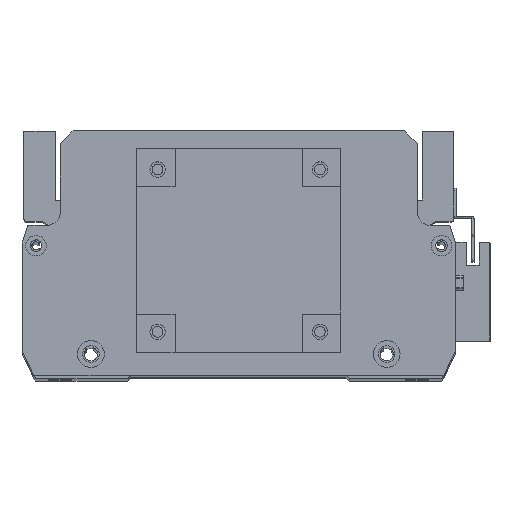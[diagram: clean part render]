
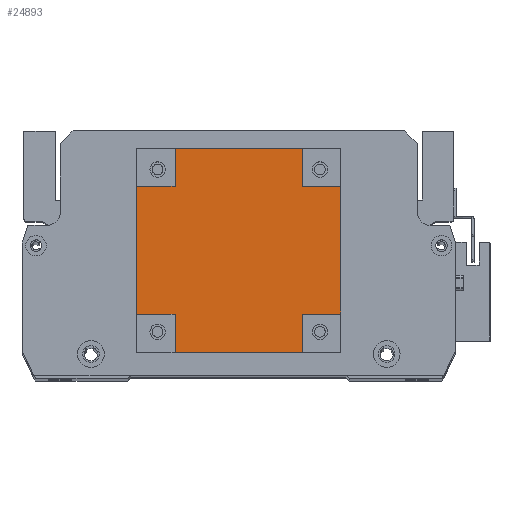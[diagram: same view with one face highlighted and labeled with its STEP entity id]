
A CAD part, top view. The second image highlights one B-rep face of the part: STEP entity #24893.
In plain terms, the highlighted planar face has unit normal (0, 0, 1).
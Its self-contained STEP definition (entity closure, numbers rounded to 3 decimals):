
#264 = ORIENTED_EDGE ( 'NONE', *, *, #17395, .F. ) ;
#311 = VECTOR ( 'NONE', #13933, 1000. ) ;
#349 = DIRECTION ( 'NONE',  ( 0., -1., 0. ) ) ;
#574 = CARTESIAN_POINT ( 'NONE',  ( 65., 80., 101.5 ) ) ;
#1042 = EDGE_CURVE ( 'NONE', #19444, #12076, #13142, .T. ) ;
#1249 = CARTESIAN_POINT ( 'NONE',  ( 15., 65., 101.5 ) ) ;
#1987 = PLANE ( 'NONE',  #18914 ) ;
#2092 = EDGE_LOOP ( 'NONE', ( #22364, #16194, #7799, #11510, #20725, #11992, #5488, #14125, #18778, #21364, #264, #14038 ) ) ;
#2242 = CARTESIAN_POINT ( 'NONE',  ( 65., 65., 101.5 ) ) ;
#2329 = CARTESIAN_POINT ( 'NONE',  ( 0., 15., 101.5 ) ) ;
#2489 = EDGE_CURVE ( 'NONE', #19890, #22319, #10090, .T. ) ;
#2601 = EDGE_CURVE ( 'NONE', #14785, #19444, #12157, .T. ) ;
#2640 = DIRECTION ( 'NONE',  ( 0., -1., 0. ) ) ;
#2738 = CARTESIAN_POINT ( 'NONE',  ( 15., 80., 101.5 ) ) ;
#2914 = CARTESIAN_POINT ( 'NONE',  ( 80., 15., 101.5 ) ) ;
#2917 = CARTESIAN_POINT ( 'NONE',  ( 65., 65., 101.5 ) ) ;
#3430 = VERTEX_POINT ( 'NONE', #2242 ) ;
#4626 = VERTEX_POINT ( 'NONE', #19118 ) ;
#4875 = CARTESIAN_POINT ( 'NONE',  ( 80., 15., 101.5 ) ) ;
#4905 = VECTOR ( 'NONE', #15430, 1000. ) ;
#5055 = DIRECTION ( 'NONE',  ( 1., 0., 0. ) ) ;
#5440 = CARTESIAN_POINT ( 'NONE',  ( 65., 15., 101.5 ) ) ;
#5488 = ORIENTED_EDGE ( 'NONE', *, *, #2489, .T. ) ;
#5630 = LINE ( 'NONE', #2329, #311 ) ;
#5728 = CARTESIAN_POINT ( 'NONE',  ( 15., 80., 101.5 ) ) ;
#5839 = CARTESIAN_POINT ( 'NONE',  ( 0., 65., 101.5 ) ) ;
#5871 = CARTESIAN_POINT ( 'NONE',  ( 0., 80., 101.5 ) ) ;
#7799 = ORIENTED_EDGE ( 'NONE', *, *, #2601, .F. ) ;
#7960 = DIRECTION ( 'NONE',  ( -1., 0., 0. ) ) ;
#7963 = LINE ( 'NONE', #574, #17597 ) ;
#8179 = VECTOR ( 'NONE', #14830, 1000. ) ;
#8330 = CARTESIAN_POINT ( 'NONE',  ( 0., 0., 101.5 ) ) ;
#9169 = VERTEX_POINT ( 'NONE', #15330 ) ;
#9411 = EDGE_CURVE ( 'NONE', #4626, #9169, #5630, .T. ) ;
#9866 = FACE_OUTER_BOUND ( 'NONE', #2092, .T. ) ;
#10090 = LINE ( 'NONE', #24067, #14581 ) ;
#10233 = DIRECTION ( 'NONE',  ( 0., -1., 0. ) ) ;
#10938 = CARTESIAN_POINT ( 'NONE',  ( 65., 80., 101.5 ) ) ;
#11028 = CARTESIAN_POINT ( 'NONE',  ( 15., 0., 101.5 ) ) ;
#11510 = ORIENTED_EDGE ( 'NONE', *, *, #12657, .T. ) ;
#11514 = VERTEX_POINT ( 'NONE', #10938 ) ;
#11574 = VECTOR ( 'NONE', #10233, 1000. ) ;
#11992 = ORIENTED_EDGE ( 'NONE', *, *, #16467, .F. ) ;
#12076 = VERTEX_POINT ( 'NONE', #2738 ) ;
#12157 = LINE ( 'NONE', #18492, #21870 ) ;
#12161 = LINE ( 'NONE', #21758, #16711 ) ;
#12657 = EDGE_CURVE ( 'NONE', #14785, #9169, #12773, .T. ) ;
#12773 = LINE ( 'NONE', #8330, #11574 ) ;
#13142 = LINE ( 'NONE', #5728, #22918 ) ;
#13191 = EDGE_CURVE ( 'NONE', #18956, #22319, #12161, .T. ) ;
#13792 = EDGE_CURVE ( 'NONE', #11514, #3430, #7963, .T. ) ;
#13933 = DIRECTION ( 'NONE',  ( -1., 0., 0. ) ) ;
#14038 = ORIENTED_EDGE ( 'NONE', *, *, #13792, .F. ) ;
#14125 = ORIENTED_EDGE ( 'NONE', *, *, #13191, .F. ) ;
#14177 = EDGE_CURVE ( 'NONE', #11514, #12076, #14562, .T. ) ;
#14562 = LINE ( 'NONE', #5871, #4905 ) ;
#14581 = VECTOR ( 'NONE', #22059, 1000. ) ;
#14785 = VERTEX_POINT ( 'NONE', #5839 ) ;
#14830 = DIRECTION ( 'NONE',  ( 0., 1., 0. ) ) ;
#15330 = CARTESIAN_POINT ( 'NONE',  ( 0., 15., 101.5 ) ) ;
#15335 = LINE ( 'NONE', #16635, #15941 ) ;
#15430 = DIRECTION ( 'NONE',  ( -1., 0., 0. ) ) ;
#15941 = VECTOR ( 'NONE', #20455, 1000. ) ;
#15971 = CARTESIAN_POINT ( 'NONE',  ( 15., 0., 101.5 ) ) ;
#16194 = ORIENTED_EDGE ( 'NONE', *, *, #1042, .F. ) ;
#16467 = EDGE_CURVE ( 'NONE', #19890, #4626, #18398, .T. ) ;
#16635 = CARTESIAN_POINT ( 'NONE',  ( 80., 0., 101.5 ) ) ;
#16711 = VECTOR ( 'NONE', #349, 1000. ) ;
#17104 = CARTESIAN_POINT ( 'NONE',  ( 80., 65., 101.5 ) ) ;
#17395 = EDGE_CURVE ( 'NONE', #3430, #22472, #20602, .T. ) ;
#17466 = CARTESIAN_POINT ( 'NONE',  ( 0., 0., 101.5 ) ) ;
#17492 = DIRECTION ( 'NONE',  ( 0., 1., 0. ) ) ;
#17597 = VECTOR ( 'NONE', #2640, 1000. ) ;
#17734 = LINE ( 'NONE', #2914, #22908 ) ;
#18398 = LINE ( 'NONE', #11028, #8179 ) ;
#18492 = CARTESIAN_POINT ( 'NONE',  ( 0., 65., 101.5 ) ) ;
#18778 = ORIENTED_EDGE ( 'NONE', *, *, #21457, .F. ) ;
#18914 = AXIS2_PLACEMENT_3D ( 'NONE', #17466, #19483, #7960 ) ;
#18956 = VERTEX_POINT ( 'NONE', #5440 ) ;
#19118 = CARTESIAN_POINT ( 'NONE',  ( 15., 15., 101.5 ) ) ;
#19444 = VERTEX_POINT ( 'NONE', #1249 ) ;
#19483 = DIRECTION ( 'NONE',  ( 0., 0., -1. ) ) ;
#19890 = VERTEX_POINT ( 'NONE', #15971 ) ;
#19989 = VECTOR ( 'NONE', #20378, 1000. ) ;
#20136 = EDGE_CURVE ( 'NONE', #21871, #22472, #15335, .T. ) ;
#20378 = DIRECTION ( 'NONE',  ( 1., 0., 0. ) ) ;
#20455 = DIRECTION ( 'NONE',  ( 0., 1., 0. ) ) ;
#20602 = LINE ( 'NONE', #2917, #19989 ) ;
#20712 = DIRECTION ( 'NONE',  ( -1., 0., 0. ) ) ;
#20725 = ORIENTED_EDGE ( 'NONE', *, *, #9411, .F. ) ;
#21364 = ORIENTED_EDGE ( 'NONE', *, *, #20136, .T. ) ;
#21457 = EDGE_CURVE ( 'NONE', #21871, #18956, #17734, .T. ) ;
#21758 = CARTESIAN_POINT ( 'NONE',  ( 65., 0., 101.5 ) ) ;
#21870 = VECTOR ( 'NONE', #5055, 1000. ) ;
#21871 = VERTEX_POINT ( 'NONE', #4875 ) ;
#22059 = DIRECTION ( 'NONE',  ( 1., 0., 0. ) ) ;
#22105 = CARTESIAN_POINT ( 'NONE',  ( 65., 0., 101.5 ) ) ;
#22319 = VERTEX_POINT ( 'NONE', #22105 ) ;
#22364 = ORIENTED_EDGE ( 'NONE', *, *, #14177, .T. ) ;
#22472 = VERTEX_POINT ( 'NONE', #17104 ) ;
#22908 = VECTOR ( 'NONE', #20712, 1000. ) ;
#22918 = VECTOR ( 'NONE', #17492, 1000. ) ;
#24067 = CARTESIAN_POINT ( 'NONE',  ( 0., 0., 101.5 ) ) ;
#24893 = ADVANCED_FACE ( 'NONE', ( #9866 ), #1987, .F. ) ;
